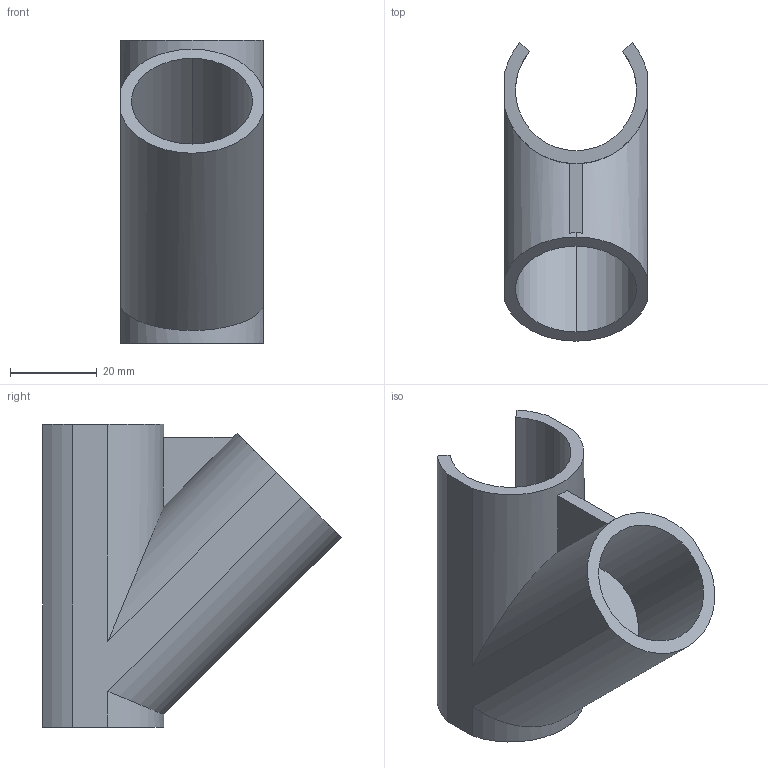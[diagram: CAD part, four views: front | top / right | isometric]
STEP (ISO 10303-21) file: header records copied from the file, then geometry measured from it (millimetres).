
FILE_DESCRIPTION (( 'STEP AP214' ), '1' );
FILE_NAME ('PJ-401.STEP', '2023-09-12T11:08:35', ( 'catia' ), ( 'HP Inc.' ), 'SwSTEP 2.0', 'SolidWorks 2021', '' );
FILE_SCHEMA (( 'AUTOMOTIVE_DESIGN' ));
Length unit declared in the file: millimetre
Products named in the file (1): PJ-401
Bounding box: 33 x 68.91 x 70.04 mm (x, y, z)
Volume: 36454.4 mm3; surface area: 18064.3 mm2
Topology: 1 solids, 1 shells, 24 faces, 63 edges, 42 vertices
Faces by surface type: cylinder 13, plane 11
Entity records: 787 total; most frequent: CARTESIAN_POINT 155, DIRECTION 127, ORIENTED_EDGE 126, EDGE_CURVE 63, AXIS2_PLACEMENT_3D 46, VERTEX_POINT 42, VECTOR 35, LINE 35
